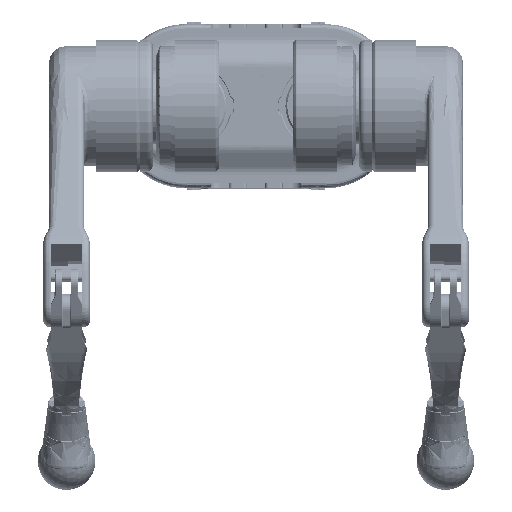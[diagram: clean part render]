
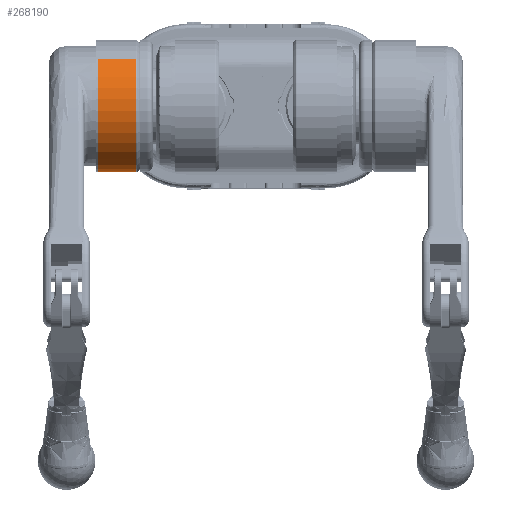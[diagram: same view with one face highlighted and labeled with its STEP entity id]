
A CAD part, top view. The second image highlights one B-rep face of the part: STEP entity #268190.
In plain terms, the highlighted cylindrical face has radius 46 mm (diameter 92 mm), a partial arc.
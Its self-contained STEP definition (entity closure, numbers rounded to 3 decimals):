
#1380 = EDGE_LOOP ( 'NONE', ( #252386, #281351, #236983, #151199 ) ) ;
#38831 = CARTESIAN_POINT ( 'NONE',  ( -111.05, -32.756, 148.203 ) ) ;
#40560 = CARTESIAN_POINT ( 'NONE',  ( -111.05, 0., 180.5 ) ) ;
#67799 = FACE_OUTER_BOUND ( 'NONE', #1380, .T. ) ;
#72525 = DIRECTION ( 'NONE',  ( 0., -0.712, -0.702 ) ) ;
#92969 = CARTESIAN_POINT ( 'NONE',  ( -110.05, 0., 180.5 ) ) ;
#96238 = EDGE_CURVE ( 'NONE', #219080, #249652, #281199, .T. ) ;
#106964 = CIRCLE ( 'NONE', #243870, 46. ) ;
#110739 = AXIS2_PLACEMENT_3D ( 'NONE', #92969, #137618, #72525 ) ;
#115703 = VERTEX_POINT ( 'NONE', #225669 ) ;
#129164 = DIRECTION ( 'NONE',  ( 1., 0., 0. ) ) ;
#137618 = DIRECTION ( 'NONE',  ( -1., 0., 0. ) ) ;
#145623 = DIRECTION ( 'NONE',  ( 1., 0., 0. ) ) ;
#151199 = ORIENTED_EDGE ( 'NONE', *, *, #202101, .F. ) ;
#166528 = CARTESIAN_POINT ( 'NONE',  ( -83.414, -32.756, 148.203 ) ) ;
#171134 = EDGE_CURVE ( 'NONE', #249652, #247004, #106964, .T. ) ;
#175517 = VECTOR ( 'NONE', #145623, 1000. ) ;
#177506 = DIRECTION ( 'NONE',  ( 0., 0.712, 0.702 ) ) ;
#197932 = CIRCLE ( 'NONE', #110739, 46. ) ;
#202101 = EDGE_CURVE ( 'NONE', #115703, #247004, #203391, .T. ) ;
#203391 = LINE ( 'NONE', #206290, #175517 ) ;
#206290 = CARTESIAN_POINT ( 'NONE',  ( -111.05, 32.756, 212.797 ) ) ;
#206491 = CARTESIAN_POINT ( 'NONE',  ( -110.05, -32.756, 148.203 ) ) ;
#219080 = VERTEX_POINT ( 'NONE', #206491 ) ;
#225669 = CARTESIAN_POINT ( 'NONE',  ( -110.05, 32.756, 212.797 ) ) ;
#235745 = CARTESIAN_POINT ( 'NONE',  ( -83.414, 0., 180.5 ) ) ;
#236983 = ORIENTED_EDGE ( 'NONE', *, *, #171134, .T. ) ;
#238054 = CYLINDRICAL_SURFACE ( 'NONE', #243788, 46. ) ;
#243096 = VECTOR ( 'NONE', #129164, 1000. ) ;
#243788 = AXIS2_PLACEMENT_3D ( 'NONE', #40560, #287140, #177506 ) ;
#243870 = AXIS2_PLACEMENT_3D ( 'NONE', #235745, #278421, #279378 ) ;
#247004 = VERTEX_POINT ( 'NONE', #276973 ) ;
#249652 = VERTEX_POINT ( 'NONE', #166528 ) ;
#252386 = ORIENTED_EDGE ( 'NONE', *, *, #261737, .F. ) ;
#261737 = EDGE_CURVE ( 'NONE', #219080, #115703, #197932, .T. ) ;
#268190 = ADVANCED_FACE ( 'NONE', ( #67799 ), #238054, .T. ) ;
#276973 = CARTESIAN_POINT ( 'NONE',  ( -83.414, 32.756, 212.797 ) ) ;
#278421 = DIRECTION ( 'NONE',  ( -1., 0., 0. ) ) ;
#279378 = DIRECTION ( 'NONE',  ( 0., 0.712, 0.702 ) ) ;
#281199 = LINE ( 'NONE', #38831, #243096 ) ;
#281351 = ORIENTED_EDGE ( 'NONE', *, *, #96238, .T. ) ;
#287140 = DIRECTION ( 'NONE',  ( 1., 0., 0. ) ) ;
